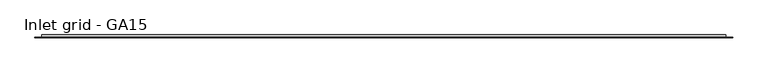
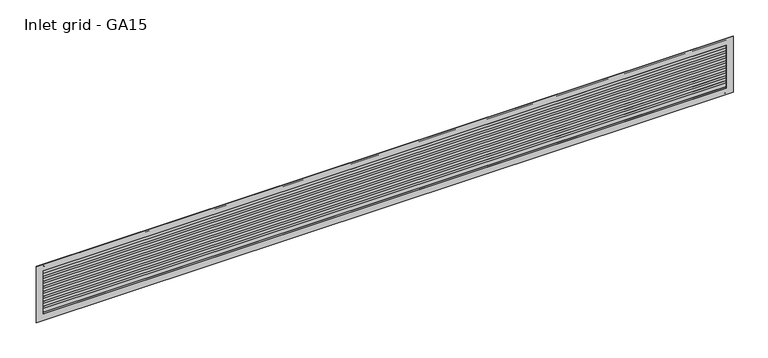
"""IFC4 building model written with IfcOpenShell, lengths in millimetres: proxy geometry, HVAC_Accessories_Emmeti_Grid-GA : Inlet grid - GA15."""

from ifc_helpers import new_model, si_unit, point, frame, frame_2d, origin, place, context, project, spatial, polyline, circle_curve, trimmed, segment, composite_curve, outline, extrude, source, transform, mapped, element, save


def inlet_grid_ga15_cf351e9f(model_context):
    return source(origin(), model_context, "Body", "SweptSolid", [
        extrude(outline(composite_curve([segment(polyline([(4.732363, 150.0), (1.0, 163.9963613)]), True, "CONTINUOUS"), segment(trimmed(circle_curve(frame_2d((1.9313102, 163.1688853)), 1.245815), [point((1.0, 163.9963613))], [point((3.1350602, 163.4898854))], False, "CARTESIAN"), True, "CONTINUOUS"), segment(polyline([(3.1350602, 163.4898854), (7.772988, 146.0976564)]), True, "CONTINUOUS"), segment(trimmed(circle_curve(frame_2d((4.272988, 146.0976564)), 3.5), [point((7.772988, 146.0976564))], [point((4.272988, 142.5976564))], False, "CARTESIAN"), True, "CONTINUOUS"), segment(polyline([(4.272988, 142.5976564), (0.0, 142.5976564), (0.0, 150.0), (4.732363, 150.0)]), True, "CONTINUOUS")], self_intersect=False)), frame((-1680.0, 0.0, 0.0), z_axis=(1.0, 0.0, 0.0), x_axis=(0.0, 1.0, 0.0)), (0.0, 0.0, 1.0), 1960.0),
        extrude(outline(composite_curve([segment(polyline([(0.0, 127.5116343), (0.0, 133.2976564), (1.0, 133.2976564)]), True, "CONTINUOUS"), segment(trimmed(circle_curve(frame_2d((-9.0945217, 118.5661561)), 17.8582326), [point((1.0, 133.2976564))], [point((5.6369786, 128.6606778))], False, "CARTESIAN"), True, "CONTINUOUS"), segment(trimmed(circle_curve(frame_2d((4.0, 127.5116343)), 2.0), [point((5.6369786, 128.6606778))], [point((6.0, 127.5116343))], False, "CARTESIAN"), True, "CONTINUOUS"), segment(polyline([(6.0, 127.5116343), (0.0, 127.5116343)]), True, "CONTINUOUS")], self_intersect=False)), frame((-1680.0, 0.0, 0.0), z_axis=(1.0, 0.0, 0.0), x_axis=(0.0, 1.0, 0.0)), (0.0, 0.0, 1.0), 1960.0),
        extrude(outline(composite_curve([segment(polyline([(0.0, 112.4256122), (0.0, 118.2116343), (1.0, 118.2116343)]), True, "CONTINUOUS"), segment(trimmed(circle_curve(frame_2d((-9.0945217, 103.480134)), 17.8582326), [point((1.0, 118.2116343))], [point((5.6369786, 113.5746557))], False, "CARTESIAN"), True, "CONTINUOUS"), segment(trimmed(circle_curve(frame_2d((4.0, 112.4256122)), 2.0), [point((5.6369786, 113.5746557))], [point((6.0, 112.4256122))], False, "CARTESIAN"), True, "CONTINUOUS"), segment(polyline([(6.0, 112.4256122), (0.0, 112.4256122)]), True, "CONTINUOUS")], self_intersect=False)), frame((-1680.0, 0.0, 0.0), z_axis=(1.0, 0.0, 0.0), x_axis=(0.0, 1.0, 0.0)), (0.0, 0.0, 1.0), 1960.0),
        extrude(outline(composite_curve([segment(polyline([(0.0, 97.3395901), (0.0, 103.1256122), (1.0, 103.1256122)]), True, "CONTINUOUS"), segment(trimmed(circle_curve(frame_2d((-9.0945217, 88.3941118)), 17.8582326), [point((1.0, 103.1256122))], [point((5.6369786, 98.4886335))], False, "CARTESIAN"), True, "CONTINUOUS"), segment(trimmed(circle_curve(frame_2d((4.0, 97.3395901)), 2.0), [point((5.6369786, 98.4886335))], [point((6.0, 97.3395901))], False, "CARTESIAN"), True, "CONTINUOUS"), segment(polyline([(6.0, 97.3395901), (0.0, 97.3395901)]), True, "CONTINUOUS")], self_intersect=False)), frame((-1680.0, 0.0, 0.0), z_axis=(1.0, 0.0, 0.0), x_axis=(0.0, 1.0, 0.0)), (0.0, 0.0, 1.0), 1960.0),
        extrude(outline(composite_curve([segment(polyline([(0.0, 82.187813), (0.0, 87.9738351), (1.0, 87.9738351)]), True, "CONTINUOUS"), segment(trimmed(circle_curve(frame_2d((-9.0945217, 73.2423348)), 17.8582326), [point((1.0, 87.9738351))], [point((5.6369786, 83.3368565))], False, "CARTESIAN"), True, "CONTINUOUS"), segment(trimmed(circle_curve(frame_2d((4.0, 82.187813)), 2.0), [point((5.6369786, 83.3368565))], [point((6.0, 82.187813))], False, "CARTESIAN"), True, "CONTINUOUS"), segment(polyline([(6.0, 82.187813), (0.0, 82.187813)]), True, "CONTINUOUS")], self_intersect=False)), frame((-1680.0, 0.0, 0.0), z_axis=(1.0, 0.0, 0.0), x_axis=(0.0, 1.0, 0.0)), (0.0, 0.0, 1.0), 1960.0),
        extrude(outline(composite_curve([segment(polyline([(0.0, 67.1017909), (0.0, 72.887813), (1.0, 72.887813)]), True, "CONTINUOUS"), segment(trimmed(circle_curve(frame_2d((-9.0945217, 58.1563127)), 17.8582326), [point((1.0, 72.887813))], [point((5.6369786, 68.2508344))], False, "CARTESIAN"), True, "CONTINUOUS"), segment(trimmed(circle_curve(frame_2d((4.0, 67.1017909)), 2.0), [point((5.6369786, 68.2508344))], [point((6.0, 67.1017909))], False, "CARTESIAN"), True, "CONTINUOUS"), segment(polyline([(6.0, 67.1017909), (0.0, 67.1017909)]), True, "CONTINUOUS")], self_intersect=False)), frame((-1680.0, 0.0, 0.0), z_axis=(1.0, 0.0, 0.0), x_axis=(0.0, 1.0, 0.0)), (0.0, 0.0, 1.0), 1960.0),
        extrude(outline(composite_curve([segment(polyline([(0.0, 52.0157688), (0.0, 57.8017909), (1.0, 57.8017909)]), True, "CONTINUOUS"), segment(trimmed(circle_curve(frame_2d((-9.0945217, 43.0702905)), 17.8582326), [point((1.0, 57.8017909))], [point((5.6369786, 53.1648122))], False, "CARTESIAN"), True, "CONTINUOUS"), segment(trimmed(circle_curve(frame_2d((4.0, 52.0157688)), 2.0), [point((5.6369786, 53.1648122))], [point((6.0, 52.0157688))], False, "CARTESIAN"), True, "CONTINUOUS"), segment(polyline([(6.0, 52.0157688), (0.0, 52.0157688)]), True, "CONTINUOUS")], self_intersect=False)), frame((-1680.0, 0.0, 0.0), z_axis=(1.0, 0.0, 0.0), x_axis=(0.0, 1.0, 0.0)), (0.0, 0.0, 1.0), 1960.0),
        extrude(outline(composite_curve([segment(polyline([(0.0, 36.8639917), (0.0, 42.6500138), (1.0, 42.6500138)]), True, "CONTINUOUS"), segment(trimmed(circle_curve(frame_2d((-9.0945217, 27.9185135)), 17.8582326), [point((1.0, 42.6500138))], [point((5.6369786, 38.0130352))], False, "CARTESIAN"), True, "CONTINUOUS"), segment(trimmed(circle_curve(frame_2d((4.0, 36.8639917)), 2.0), [point((5.6369786, 38.0130352))], [point((6.0, 36.8639917))], False, "CARTESIAN"), True, "CONTINUOUS"), segment(polyline([(6.0, 36.8639917), (0.0, 36.8639917)]), True, "CONTINUOUS")], self_intersect=False)), frame((-1680.0, 0.0, 0.0), z_axis=(1.0, 0.0, 0.0), x_axis=(0.0, 1.0, 0.0)), (0.0, 0.0, 1.0), 1960.0),
        extrude(outline(composite_curve([segment(polyline([(0.0, 20.0), (0.0, 24.4023436), (5.772988, 24.4023436)]), True, "CONTINUOUS"), segment(trimmed(circle_curve(frame_2d((5.772988, 22.4023436)), 2.0), [point((5.772988, 24.4023436))], [point((7.772988, 22.4023436))], False, "CARTESIAN"), True, "CONTINUOUS"), segment(polyline([(7.772988, 22.4023436), (3.1350602, 5.0101146)]), True, "CONTINUOUS"), segment(trimmed(circle_curve(frame_2d((1.9313102, 5.3311147)), 1.245815), [point((3.1350602, 5.0101146))], [point((1.0, 4.5036387))], False, "CARTESIAN"), True, "CONTINUOUS"), segment(polyline([(1.0, 4.5036387), (5.132363, 20.0), (0.0, 20.0)]), True, "CONTINUOUS")], self_intersect=False)), frame((-1680.0, 0.0, 0.0), z_axis=(1.0, 0.0, 0.0), x_axis=(0.0, 1.0, 0.0)), (0.0, 0.0, 1.0), 1960.0),
        extrude(outline(polyline([(170.0, 300.0), (170.0, -1700.0), (0.0, -1700.0), (0.0, 300.0), (170.0, 300.0)]), holes=[polyline([(150.0, 280.0), (20.0, 280.0), (20.0, -1680.0), (150.0, -1680.0), (150.0, 280.0)])]), frame((0.0, 0.0, 0.0), z_axis=(0.0, 1.0, 0.0), x_axis=(0.0, 0.0, 1.0)), (0.0, 0.0, 1.0), 1.0),
        extrude(outline(polyline([(280.0, 0.0), (-1680.0, 0.0), (-1680.0, 1.0), (280.0, 1.0), (280.0, 0.0)])), frame((0.0, 0.0, 24.4023436), z_axis=(0.0, 0.0, 1.0), x_axis=(1.0, 0.0, 0.0)), (0.0, 0.0, 1.0), 125.5976564),
    ])


if __name__ == "__main__":
    model = new_model("IFC4")
    model_context = context("Model", 3, world=origin())
    ifc_project = project(units=[si_unit("LENGTHUNIT", "METRE", prefix="MILLI")], contexts=[model_context])
    site = spatial("IfcSite", under=ifc_project)
    building = spatial("IfcBuilding", under=site)
    placement = place(None, origin())
    inlet_grid_ga15_shape = inlet_grid_ga15_cf351e9f(model_context)
    element("IfcBuildingElementProxy", 1, Name="HVAC_Accessories_Emmeti_Grid-GA : Inlet grid - GA15", ObjectType="HVAC_Accessories_Emmeti_Grid-GA : Inlet grid - GA15", at=placement, inside=building, context=model_context, shape_type="MappedRepresentation", body=[
        mapped(inlet_grid_ga15_shape, transform((0.0, 0.0, 0.0), x_axis=(1.0, 0.0, 0.0), y_axis=(0.0, 1.0, 0.0), z_axis=(0.0, 0.0, 1.0))),
    ])
    save(model, "model.ifc")
